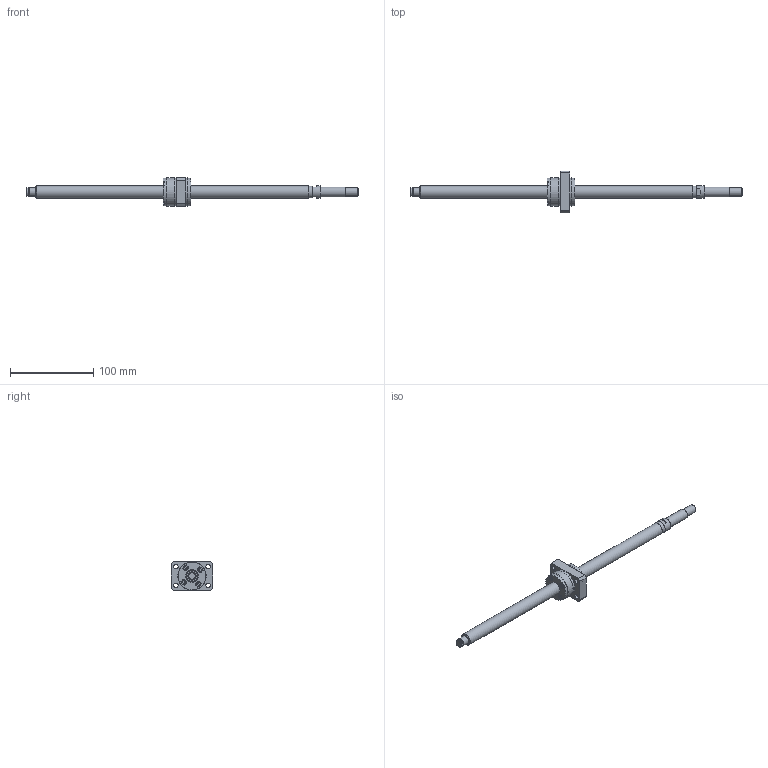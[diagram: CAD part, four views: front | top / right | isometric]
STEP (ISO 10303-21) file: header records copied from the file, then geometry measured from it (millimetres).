
FILE_DESCRIPTION(/* description */ ('STEP AP214'),/* implementation_level */ '2;1');
FILE_NAME(/* name */ 'SG1505 -328R400C5B0X(153.5)',/* time_stamp */ '2026-07-24T21:02:28+02:00',/* author */ ('License CC BY-ND 4.0'),/* organization */ ('CADENAS'),/* preprocessor_version */ 'ST-DEVELOPER v20',/* originating_system */ 'PARTsolutions',/* authorisation */ ' ');
FILE_SCHEMA (('AUTOMOTIVE_DESIGN {1 0 10303 214 3 1 1}'));
Length unit declared in the file: millimetre
Products named in the file (3): SG1505 -328R400C5B0X(153.5); SG1505-328R400C5B_shaft; SG1505  C5_nut
Assembly tree (2 placements, depth 2):
  SG1505 -328R400C5B0X(153.5)
    SG1505-328R400C5B_shaft
    SG1505  C5_nut
Bounding box: 400 x 50 x 34 mm (x, y, z)
Volume: 95877.2 mm3; surface area: 28401.5 mm2
Topology: 2 solids, 2 shells, 121 faces, 268 edges, 173 vertices
Faces by surface type: plane 76, cylinder 36, cone 8, torus 1
Full cylindrical faces by diameter (mm): 2 x1, 4.917 x1, 5.5 x8, 9.5 x4, 9.6 x1, 10 x3, 12 x1, 14.387 x1, 15 x3, 33.5 x3, 34 x2
Entity records: 3234 total; most frequent: DIRECTION 568, CARTESIAN_POINT 532, ORIENTED_EDGE 456, EDGE_CURVE 228, AXIS2_PLACEMENT_3D 217, EDGE_LOOP 192, FACE_BOUND 192, VERTEX_POINT 170
